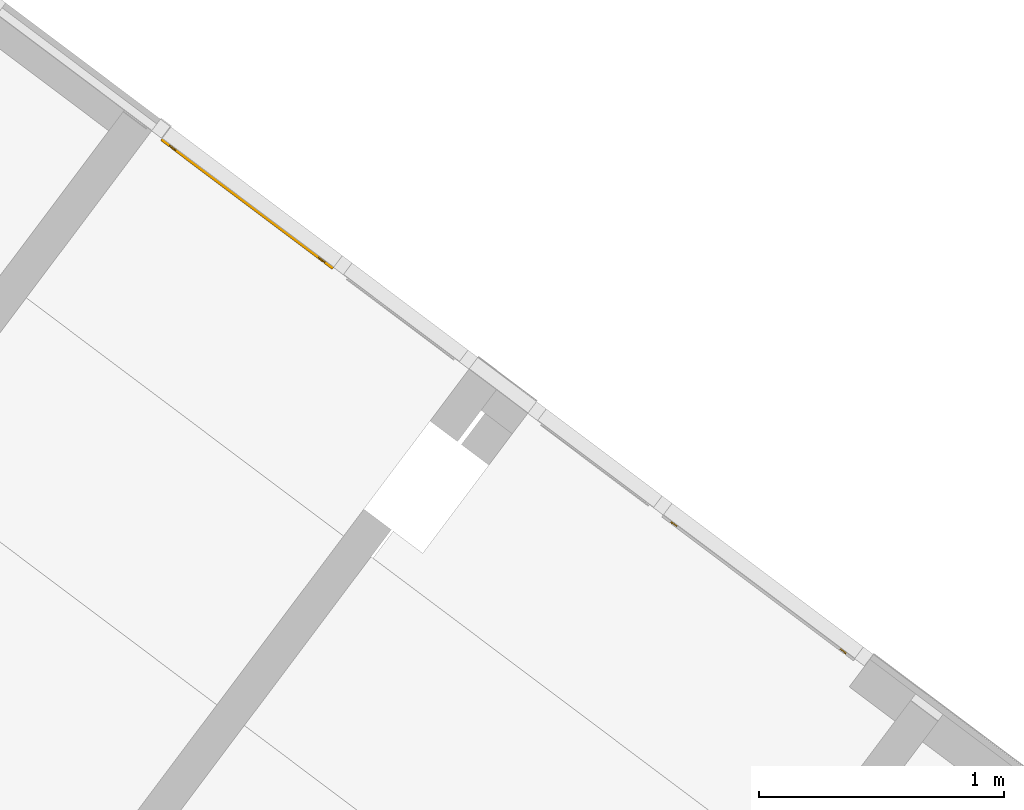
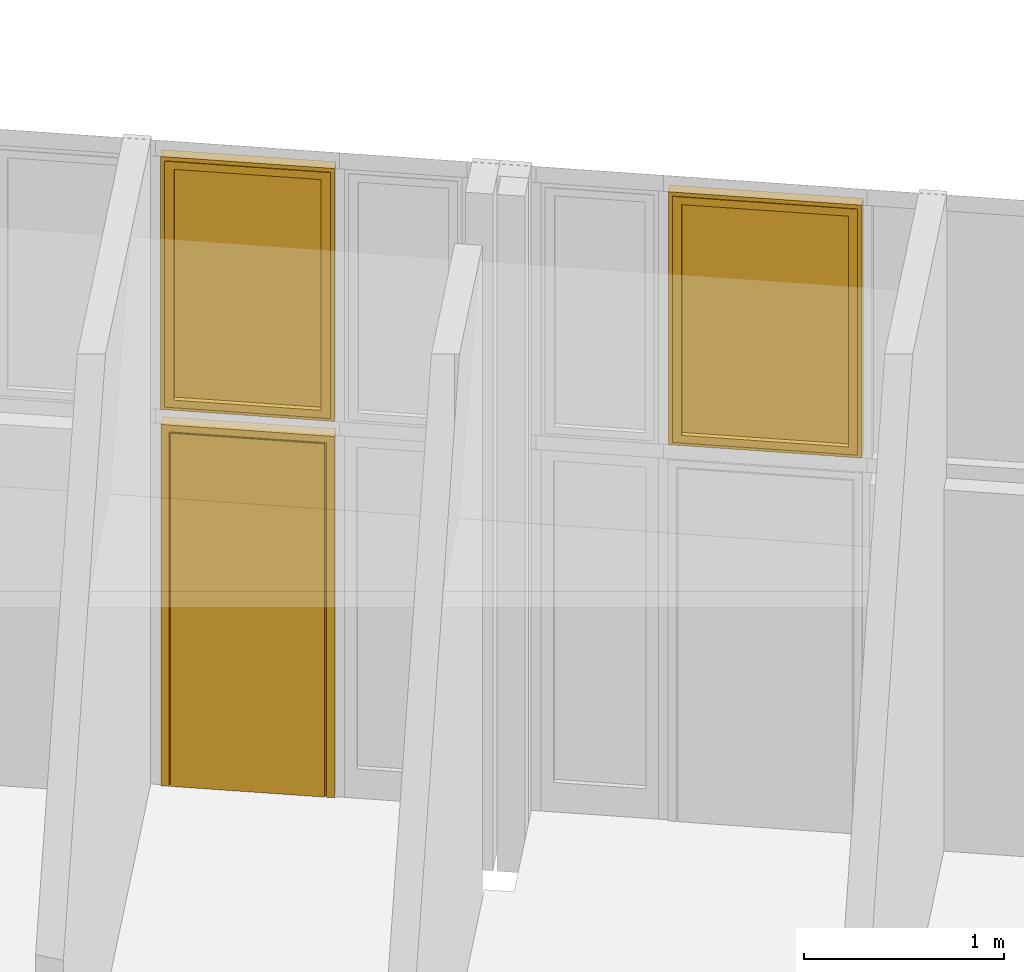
# One storey, part 16 of 18: 2 windows, 1 door, 2 elements without a shape of their own.
"""IFC2X3 building model written with IfcOpenShell, lengths in metres."""

from ifc_helpers import new_model, entity, si_unit, converted_unit, derived_unit, direction, frame, origin, place, context, subcontext, project, spatial, faceted_brep, source, transform, mapped, material, material_list, type_object, type_shapes, element, aggregate, save


model = new_model("IFC2X3")

# Units and contexts
model_context = context("Model", 3, precision=1e-05, world=origin(), true_north=direction((6.123031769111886e-17, 1.0)))
body_context = subcontext(model_context, "Body", "Model", "MODEL_VIEW")
ifc_project = project(units=[si_unit("LENGTHUNIT", "METRE"), si_unit("AREAUNIT", "SQUARE_METRE"), si_unit("VOLUMEUNIT", "CUBIC_METRE"), converted_unit("PLANEANGLEUNIT", "DEGREE", entity("IfcRatioMeasure", 0.017453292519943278), si_unit("PLANEANGLEUNIT", "RADIAN"), dimensions=[0, 0, 0, 0, 0, 0, 0]), si_unit("MASSUNIT", "GRAM", prefix="KILO"), derived_unit("MASSDENSITYUNIT", [(si_unit("MASSUNIT", "GRAM", prefix="KILO"), 1), (si_unit("LENGTHUNIT", "METRE"), -3)]), derived_unit("IONCONCENTRATIONUNIT", [(si_unit("MASSUNIT", "GRAM", prefix="KILO"), 1), (si_unit("LENGTHUNIT", "METRE"), -3)]), derived_unit("MOMENTOFINERTIAUNIT", [(si_unit("LENGTHUNIT", "METRE"), 4)]), si_unit("TIMEUNIT", "SECOND"), si_unit("FREQUENCYUNIT", "HERTZ"), si_unit("THERMODYNAMICTEMPERATUREUNIT", "DEGREE_CELSIUS"), derived_unit("THERMALTRANSMITTANCEUNIT", [(si_unit("MASSUNIT", "GRAM", prefix="KILO"), 1), (si_unit("THERMODYNAMICTEMPERATUREUNIT", "KELVIN"), -1), (si_unit("TIMEUNIT", "SECOND"), -3)]), derived_unit("THERMALCONDUCTANCEUNIT", [(si_unit("MASSUNIT", "GRAM", prefix="KILO"), 1), (si_unit("THERMODYNAMICTEMPERATUREUNIT", "KELVIN"), -1), (si_unit("TIMEUNIT", "SECOND"), -3), (si_unit("LENGTHUNIT", "METRE"), 1)]), derived_unit("VOLUMETRICFLOWRATEUNIT", [(si_unit("LENGTHUNIT", "METRE"), 3), (si_unit("TIMEUNIT", "SECOND"), -1)]), derived_unit("MASSFLOWRATEUNIT", [(si_unit("MASSUNIT", "GRAM", prefix="KILO"), 1), (si_unit("TIMEUNIT", "SECOND"), -1)]), derived_unit("ROTATIONALFREQUENCYUNIT", [(si_unit("TIMEUNIT", "SECOND"), -1)]), si_unit("ELECTRICCURRENTUNIT", "AMPERE"), si_unit("ELECTRICVOLTAGEUNIT", "VOLT"), si_unit("POWERUNIT", "WATT"), si_unit("FORCEUNIT", "NEWTON", prefix="KILO"), si_unit("ILLUMINANCEUNIT", "LUX"), si_unit("LUMINOUSFLUXUNIT", "LUMEN"), si_unit("LUMINOUSINTENSITYUNIT", "CANDELA"), derived_unit("USERDEFINED", [(si_unit("MASSUNIT", "GRAM", prefix="KILO"), -1), (si_unit("LENGTHUNIT", "METRE"), -2), (si_unit("TIMEUNIT", "SECOND"), 3), (si_unit("LUMINOUSFLUXUNIT", "LUMEN"), 1)]), derived_unit("USERDEFINED", [(si_unit("MASSUNIT", "GRAM", prefix="KILO"), 1), (si_unit("TIMEUNIT", "SECOND"), -3), (si_unit("LENGTHUNIT", "METRE"), 3), (si_unit("ELECTRICCURRENTUNIT", "AMPERE"), -2)]), derived_unit("SOUNDPOWERUNIT", [(si_unit("MASSUNIT", "GRAM", prefix="KILO"), 1), (si_unit("TIMEUNIT", "SECOND"), -3), (si_unit("LENGTHUNIT", "METRE"), 2)]), derived_unit("SOUNDPRESSUREUNIT", [(si_unit("MASSUNIT", "GRAM", prefix="KILO"), 1), (si_unit("LENGTHUNIT", "METRE"), -1), (si_unit("TIMEUNIT", "SECOND"), -2)]), derived_unit("LINEARVELOCITYUNIT", [(si_unit("LENGTHUNIT", "METRE"), 1), (si_unit("TIMEUNIT", "SECOND"), -1)]), si_unit("PRESSUREUNIT", "PASCAL"), derived_unit("USERDEFINED", [(si_unit("MASSUNIT", "GRAM", prefix="KILO"), 1), (si_unit("LENGTHUNIT", "METRE"), -2), (si_unit("TIMEUNIT", "SECOND"), -2)]), derived_unit("LINEARFORCEUNIT", [(si_unit("MASSUNIT", "GRAM", prefix="KILO"), 1), (si_unit("TIMEUNIT", "SECOND"), -2)]), derived_unit("PLANARFORCEUNIT", [(si_unit("MASSUNIT", "GRAM", prefix="KILO"), 1), (si_unit("LENGTHUNIT", "METRE"), -1), (si_unit("TIMEUNIT", "SECOND"), -2)]), derived_unit("SPECIFICHEATCAPACITYUNIT", [(si_unit("THERMODYNAMICTEMPERATUREUNIT", "KELVIN"), -1), (si_unit("LENGTHUNIT", "METRE"), 2), (si_unit("TIMEUNIT", "SECOND"), -2)]), derived_unit("HEATINGVALUEUNIT", [(si_unit("LENGTHUNIT", "METRE"), 2), (si_unit("TIMEUNIT", "SECOND"), -2)]), derived_unit("VAPORPERMEABILITYUNIT", [(si_unit("LENGTHUNIT", "METRE"), -1), (si_unit("TIMEUNIT", "SECOND"), 1)]), derived_unit("DYNAMICVISCOSITYUNIT", [(si_unit("MASSUNIT", "GRAM", prefix="KILO"), 1), (si_unit("TIMEUNIT", "SECOND"), -1), (si_unit("LENGTHUNIT", "METRE"), -1)]), derived_unit("THERMALEXPANSIONCOEFFICIENTUNIT", [(si_unit("THERMODYNAMICTEMPERATUREUNIT", "KELVIN"), -1)]), derived_unit("MODULUSOFELASTICITYUNIT", [(si_unit("MASSUNIT", "GRAM", prefix="KILO"), 1), (si_unit("LENGTHUNIT", "METRE"), -1), (si_unit("TIMEUNIT", "SECOND"), -2)]), derived_unit("ISOTHERMALMOISTURECAPACITYUNIT", [(si_unit("LENGTHUNIT", "METRE"), 3), (si_unit("MASSUNIT", "GRAM", prefix="KILO"), -1)]), derived_unit("MOISTUREDIFFUSIVITYUNIT", [(si_unit("TIMEUNIT", "SECOND"), -1), (si_unit("LENGTHUNIT", "METRE"), 2)])], contexts=[model_context])

# Site, building, storey
site_placement = place(None, frame((0.0, 0.0, 235.0), z_axis=(0.0, 0.0, 1.0), x_axis=(-0.7996477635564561, 0.6004693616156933, 0.0)))
site = spatial("IfcSite", under=ifc_project, at=site_placement, Name="Default", CompositionType="ELEMENT")
building_placement = place(site_placement, origin())
building = spatial("IfcBuilding", under=site, at=building_placement, CompositionType="ELEMENT")
storey_placement = place(building_placement, frame((0.0, 0.0, -4.459999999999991)))
storey = spatial("IfcBuildingStorey", under=building, at=storey_placement, Name="PS1- Vestuari", CompositionType="ELEMENT", Elevation=-4.459999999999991)

# Curtain wall, windows
curtain_wall_type = type_object("IfcCurtainWallType", Name="Muro cortina:MC- EXT- AL6", PredefinedType="NOTDEFINED")
curtain_wall_1_placement = place(storey_placement, frame((0.0, 0.0, 4.459999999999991)))
curtain_wall_1 = element("IfcCurtainWall", 1, at=curtain_wall_1_placement, inside=storey, type_object=curtain_wall_type, Name="Muro cortina:MC- EXT- AL6", ObjectType="Muro cortina:MC- EXT- AL6")
ifc_material_1 = material(Name="_Vidre")
ifc_material_2 = material(Name="_Alumini- T1- Perfil")
ifc_material_list = material_list([ifc_material_1, ifc_material_2])
window_style_1 = type_object("IfcWindowStyle", Name="MC- Alu- Conjunt finestra basculant- 68x68 cm:MC- Alu- Conjunt finestra basculant- 68x68 cm", ConstructionType="NOTDEFINED", OperationType="NOTDEFINED", ParameterTakesPrecedence=False, Sizeable=False, material=ifc_material_list)
shared_shape_1 = source(origin(), body_context, "Body", "Brep", [
    faceted_brep([(0.43666171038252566, -0.03559830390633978, 0.051999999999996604), (-0.4366617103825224, -0.035598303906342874, 0.051999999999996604), (-0.4366617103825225, -0.011598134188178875, 0.051999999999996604), (0.4366617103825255, -0.011598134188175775, 0.051999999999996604), (0.43666171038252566, -0.03559830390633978, 1.4953027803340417), (0.4366617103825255, -0.011598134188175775, 1.4953027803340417), (-0.4366617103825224, -0.011598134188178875, 1.4953027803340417), (-0.4366617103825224, -0.035598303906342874, 1.4953027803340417)], [[[0, 1, 2, 3]], [[4, 0, 3, 5]], [[5, 3, 2, 6]], [[6, 2, 1, 7]], [[7, 1, 0, 4]], [[4, 5, 6, 7]]]),
    faceted_brep([(-0.42096088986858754, -0.009998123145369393, 1.4796019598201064), (-0.4209608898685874, -0.009998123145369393, 0.06789804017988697), (-0.4209608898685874, -0.007998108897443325, 0.06789804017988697), (-0.4209608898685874, -0.007998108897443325, 1.4796019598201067), (-0.44985893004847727, -0.007998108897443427, 1.5084999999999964), (0.4498589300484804, -0.00799810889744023, 1.5084999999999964), (0.44985893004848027, -0.00799810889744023, 0.03899999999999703), (-0.44985893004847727, -0.007998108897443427, 0.03899999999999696), (0.4209608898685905, -0.007998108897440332, 1.4796019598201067), (0.4209608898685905, -0.007998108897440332, 0.06789804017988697), (0.4209608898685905, -0.009998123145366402, 0.06789804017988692), (0.42096088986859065, -0.009998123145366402, 1.4796019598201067), (0.4366617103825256, -0.009998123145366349, 1.4953027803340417), (-0.4366617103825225, -0.00999812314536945, 1.4953027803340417), (-0.4366617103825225, -0.00999812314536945, 0.05219721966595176), (0.4366617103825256, -0.009998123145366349, 0.05219721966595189), (-0.4366617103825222, -0.04079986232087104, 1.4953027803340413), (-0.43666171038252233, -0.04079986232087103, 0.05219721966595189), (0.4366617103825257, -0.040799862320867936, 0.05219721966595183), (0.4366617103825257, -0.040799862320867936, 1.4953027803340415), (0.42096088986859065, -0.040799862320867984, 1.4796019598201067), (-0.42096088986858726, -0.04079986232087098, 1.4796019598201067), (-0.42096088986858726, -0.04079986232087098, 0.06789804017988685), (0.42096088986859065, -0.040799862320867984, 0.06789804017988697), (-0.4209608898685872, -0.06800005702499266, 1.4796019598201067), (-0.4209608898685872, -0.06800005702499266, 0.06789804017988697), (0.42096088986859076, -0.06800005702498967, 0.06789804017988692), (0.4209608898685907, -0.06800005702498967, 1.4796019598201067), (0.4673628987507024, -0.06800005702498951, 1.5260039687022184), (-0.46736289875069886, -0.06800005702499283, 1.5260039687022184), (-0.46736289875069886, -0.06800005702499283, 0.021496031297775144), (0.4673628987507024, -0.06800005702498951, 0.021496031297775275), (-0.46736289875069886, -0.06450003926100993, 1.5260039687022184), (-0.46736289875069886, -0.06450003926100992, 0.021496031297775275), (0.4673628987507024, -0.0645000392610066, 0.021496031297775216), (0.4673628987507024, -0.0645000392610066, 1.5260039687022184), (0.4498589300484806, -0.06450003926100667, 1.5084999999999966), (-0.44985893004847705, -0.06450003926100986, 1.5084999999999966), (-0.44985893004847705, -0.06450003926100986, 0.03899999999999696), (0.4498589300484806, -0.06450003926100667, 0.03899999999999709)], [[[0, 1, 2, 3]], [[4, 5, 6, 7], [8, 3, 2, 9]], [[1, 10, 9, 2]], [[0, 11, 10, 1], [12, 13, 14, 15]], [[16, 17, 14, 13]], [[17, 18, 15, 14]], [[16, 19, 18, 17], [20, 21, 22, 23]], [[24, 25, 22, 21]], [[25, 26, 23, 22]], [[24, 27, 26, 25], [28, 29, 30, 31]], [[32, 33, 30, 29]], [[33, 34, 31, 30]], [[32, 35, 34, 33], [36, 37, 38, 39]], [[4, 7, 38, 37]], [[7, 6, 39, 38]], [[10, 11, 8, 9]], [[18, 19, 12, 15]], [[26, 27, 20, 23]], [[34, 35, 28, 31]], [[6, 5, 36, 39]], [[11, 0, 3, 8]], [[19, 16, 13, 12]], [[27, 24, 21, 20]], [[35, 32, 29, 28]], [[5, 4, 37, 36]]], outer=[[True], [True, False], [True], [False, True], [True], [True], [True, False], [True], [True], [False, True], [True], [True], [True, False], [True], [True], [True], [True], [True], [True], [True], [True], [True], [True], [True], [True]]),
    faceted_brep([(0.4259431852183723, 0.0, 1.484693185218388), (0.4259431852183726, 0.0, 0.06280681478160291), (0.4259431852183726, -0.0040000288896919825, 0.06280681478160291), (0.4259431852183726, -0.0040000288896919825, 1.4846931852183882), (-0.4259431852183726, -0.0040000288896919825, 1.4846931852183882), (-0.4259431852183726, -0.0040000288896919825, 0.06280681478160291), (0.4613498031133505, -0.0040000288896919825, 1.5200998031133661), (-0.4613498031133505, -0.0040000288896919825, 1.5200998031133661), (-0.4613498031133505, -0.0040000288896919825, 0.02740019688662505), (0.4613498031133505, -0.0040000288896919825, 0.027400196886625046), (-0.4259431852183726, 0.0, 0.06280681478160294), (-0.4259431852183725, 0.0, 1.4846931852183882), (-0.48874999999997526, 0.0, 1.547499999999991), (0.48874999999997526, 0.0, 1.547499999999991), (0.48874999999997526, 0.0, 0.0), (-0.48874999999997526, 0.0, 0.0), (0.48874999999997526, -0.05999999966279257, 1.547499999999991), (0.48874999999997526, -0.05999999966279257, 0.0), (-0.48874999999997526, -0.05999999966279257, 0.0), (-0.48874999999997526, -0.05999999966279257, 1.547499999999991), (-0.4613498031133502, -0.05999999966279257, 1.520099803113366), (0.4613498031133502, -0.05999999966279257, 1.520099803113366), (0.4613498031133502, -0.05999999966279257, 0.02740019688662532), (-0.4613498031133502, -0.05999999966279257, 0.027400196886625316)], [[[0, 1, 2, 3]], [[4, 3, 2, 5], [6, 7, 8, 9]], [[1, 10, 5, 2]], [[0, 11, 10, 1], [12, 13, 14, 15]], [[16, 17, 14, 13]], [[17, 18, 15, 14]], [[16, 19, 18, 17], [20, 21, 22, 23]], [[6, 9, 22, 21]], [[9, 8, 23, 22]], [[10, 11, 4, 5]], [[18, 19, 12, 15]], [[8, 7, 20, 23]], [[11, 0, 3, 4]], [[19, 16, 13, 12]], [[7, 6, 21, 20]]], outer=[[True], [False, True], [True], [False, True], [True], [True], [True, False], [True], [True], [True], [True], [True], [True], [True], [True]]),
])
type_shapes(window_style_1, [shared_shape_1])
window_1_placement = place(curtain_wall_1_placement, frame((47.864397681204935, -40.465191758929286, -2.164999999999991), z_axis=(0.0, 0.0, 1.0), x_axis=(-1.0, 0.0, 0.0)))
window_1 = element("IfcWindow", 2, at=window_1_placement, type_object=window_style_1, material=ifc_material_list, Name="MC- Alu- Conjunt finestra basculant- 68x68 cm:MC- Alu- Conjunt finestra basculant- 68x68 cm", ObjectType="MC- Alu- Conjunt finestra basculant- 68x68 cm:MC- Alu- Conjunt finestra basculant- 68x68 cm", OverallHeight=1.5474999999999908, OverallWidth=0.9774999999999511, context=body_context, shape_type="MappedRepresentation", body=[
    mapped(shared_shape_1, transform((0.0, 0.0, 0.0), scale=1.0)),
])
window_style_2 = type_object("IfcWindowStyle", Name="MC- Alu- Conjunt finestra basculant- 68x68 cm:MC- Alu- Conjunt finestra basculant- 68x68 cm", ConstructionType="NOTDEFINED", OperationType="NOTDEFINED", ParameterTakesPrecedence=False, Sizeable=False, material=ifc_material_list)
shared_shape_2 = source(origin(), body_context, "Body", "Brep", [
    faceted_brep([(0.3874117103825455, -0.03559830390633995, 0.051999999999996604), (-0.38741171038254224, -0.0355983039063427, 0.051999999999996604), (-0.38741171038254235, -0.011598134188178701, 0.051999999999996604), (0.38741171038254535, -0.011598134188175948, 0.051999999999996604), (0.3874117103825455, -0.03559830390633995, 1.4953027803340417), (0.38741171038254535, -0.011598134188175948, 1.4953027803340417), (-0.38741171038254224, -0.011598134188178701, 1.4953027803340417), (-0.38741171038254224, -0.0355983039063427, 1.4953027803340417)], [[[0, 1, 2, 3]], [[4, 0, 3, 5]], [[5, 3, 2, 6]], [[6, 2, 1, 7]], [[7, 1, 0, 4]], [[4, 5, 6, 7]]]),
    faceted_brep([(-0.3717108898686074, -0.00999812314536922, 1.4796019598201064), (-0.37171088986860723, -0.00999812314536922, 0.06789804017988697), (-0.37171088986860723, -0.00799810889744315, 0.06789804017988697), (-0.37171088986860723, -0.00799810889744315, 1.4796019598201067), (-0.4006089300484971, -0.007998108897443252, 1.5084999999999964), (0.40060893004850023, -0.007998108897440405, 1.5084999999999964), (0.40060893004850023, -0.007998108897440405, 0.03899999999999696), (-0.4006089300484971, -0.007998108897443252, 0.03899999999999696), (0.37171088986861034, -0.007998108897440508, 1.4796019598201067), (0.37171088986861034, -0.007998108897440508, 0.06789804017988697), (0.37171088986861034, -0.00999812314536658, 0.06789804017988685), (0.3717108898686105, -0.00999812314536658, 1.4796019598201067), (0.38741171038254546, -0.009998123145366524, 1.4953027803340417), (-0.38741171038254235, -0.009998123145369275, 1.4953027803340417), (-0.38741171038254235, -0.009998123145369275, 0.05219721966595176), (0.38741171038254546, -0.009998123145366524, 0.05219721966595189), (-0.3874117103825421, -0.04079986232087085, 1.4953027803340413), (-0.3874117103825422, -0.040799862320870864, 0.05219721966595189), (0.38741171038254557, -0.0407998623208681, 0.05219721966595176), (0.38741171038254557, -0.0407998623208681, 1.4953027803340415), (0.3717108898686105, -0.040799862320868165, 1.4796019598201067), (-0.3717108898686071, -0.0407998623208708, 1.4796019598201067), (-0.3717108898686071, -0.0407998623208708, 0.06789804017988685), (0.3717108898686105, -0.040799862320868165, 0.06789804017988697), (-0.37171088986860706, -0.06800005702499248, 1.4796019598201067), (-0.37171088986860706, -0.06800005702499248, 0.06789804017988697), (0.3717108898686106, -0.06800005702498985, 0.06789804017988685), (0.37171088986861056, -0.06800005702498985, 1.4796019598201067), (0.4181128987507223, -0.06800005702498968, 1.5260039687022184), (-0.4181128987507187, -0.06800005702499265, 1.5260039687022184), (-0.4181128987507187, -0.06800005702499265, 0.021496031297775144), (0.4181128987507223, -0.06800005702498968, 0.021496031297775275), (-0.4181128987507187, -0.06450003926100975, 1.5260039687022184), (-0.4181128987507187, -0.06450003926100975, 0.021496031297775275), (0.4181128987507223, -0.06450003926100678, 0.021496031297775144), (0.4181128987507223, -0.06450003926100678, 1.5260039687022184), (0.40060893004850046, -0.06450003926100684, 1.5084999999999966), (-0.4006089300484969, -0.06450003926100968, 1.5084999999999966), (-0.4006089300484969, -0.06450003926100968, 0.03899999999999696), (0.40060893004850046, -0.06450003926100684, 0.03899999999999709)], [[[0, 1, 2, 3]], [[4, 5, 6, 7], [8, 3, 2, 9]], [[1, 10, 9, 2]], [[0, 11, 10, 1], [12, 13, 14, 15]], [[16, 17, 14, 13]], [[17, 18, 15, 14]], [[16, 19, 18, 17], [20, 21, 22, 23]], [[24, 25, 22, 21]], [[25, 26, 23, 22]], [[24, 27, 26, 25], [28, 29, 30, 31]], [[32, 33, 30, 29]], [[33, 34, 31, 30]], [[32, 35, 34, 33], [36, 37, 38, 39]], [[4, 7, 38, 37]], [[7, 6, 39, 38]], [[10, 11, 8, 9]], [[18, 19, 12, 15]], [[26, 27, 20, 23]], [[34, 35, 28, 31]], [[6, 5, 36, 39]], [[11, 0, 3, 8]], [[19, 16, 13, 12]], [[27, 24, 21, 20]], [[35, 32, 29, 28]], [[5, 4, 37, 36]]], outer=[[True], [True, False], [True], [False, True], [True], [True], [True, False], [True], [True], [False, True], [True], [True], [True, False], [True], [True], [True], [True], [True], [True], [True], [True], [True], [True], [True], [True]]),
    faceted_brep([(0.3766931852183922, 0.0, 1.484693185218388), (0.37669318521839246, 0.0, 0.06280681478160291), (0.37669318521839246, -0.0040000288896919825, 0.06280681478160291), (0.37669318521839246, -0.0040000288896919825, 1.4846931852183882), (-0.37669318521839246, -0.0040000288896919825, 1.4846931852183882), (-0.37669318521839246, -0.0040000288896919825, 0.06280681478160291), (0.41209980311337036, -0.0040000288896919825, 1.5200998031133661), (-0.41209980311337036, -0.0040000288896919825, 1.5200998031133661), (-0.41209980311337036, -0.0040000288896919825, 0.02740019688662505), (0.41209980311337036, -0.0040000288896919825, 0.027400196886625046), (-0.37669318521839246, 0.0, 0.06280681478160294), (-0.3766931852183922, 0.0, 1.484693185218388), (-0.4394999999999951, 0.0, 1.547499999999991), (0.4394999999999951, 0.0, 1.547499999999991), (0.4394999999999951, 0.0, 0.0), (-0.4394999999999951, 0.0, 0.0), (0.4394999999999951, -0.05999999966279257, 1.547499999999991), (0.4394999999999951, -0.05999999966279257, 0.0), (-0.4394999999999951, -0.05999999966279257, 0.0), (-0.4394999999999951, -0.05999999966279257, 1.547499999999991), (-0.4120998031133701, -0.05999999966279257, 1.520099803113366), (0.4120998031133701, -0.05999999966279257, 1.520099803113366), (0.4120998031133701, -0.05999999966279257, 0.02740019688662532), (-0.4120998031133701, -0.05999999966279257, 0.027400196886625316)], [[[0, 1, 2, 3]], [[4, 3, 2, 5], [6, 7, 8, 9]], [[1, 10, 5, 2]], [[0, 11, 10, 1], [12, 13, 14, 15]], [[16, 17, 14, 13]], [[17, 18, 15, 14]], [[16, 19, 18, 17], [20, 21, 22, 23]], [[6, 9, 22, 21]], [[9, 8, 23, 22]], [[10, 11, 4, 5]], [[18, 19, 12, 15]], [[8, 7, 20, 23]], [[11, 0, 3, 4]], [[19, 16, 13, 12]], [[7, 6, 21, 20]]], outer=[[True], [False, True], [True], [False, True], [True], [True], [True, False], [True], [True], [True], [True], [True], [True], [True], [True]]),
])
type_shapes(window_style_2, [shared_shape_2])
window_2_placement = place(curtain_wall_1_placement, frame((50.47664768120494, -40.46519175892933, -2.164999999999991), z_axis=(0.0, 0.0, 1.0), x_axis=(-1.0, 0.0, 0.0)))
window_2 = element("IfcWindow", 3, at=window_2_placement, type_object=window_style_2, material=ifc_material_list, Name="MC- Alu- Conjunt finestra basculant- 68x68 cm:MC- Alu- Conjunt finestra basculant- 68x68 cm", ObjectType="MC- Alu- Conjunt finestra basculant- 68x68 cm:MC- Alu- Conjunt finestra basculant- 68x68 cm", OverallHeight=1.5474999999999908, OverallWidth=0.8789999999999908, context=body_context, shape_type="MappedRepresentation", body=[
    mapped(shared_shape_2, transform((0.0, 0.0, 0.0), scale=1.0)),
])
aggregate(curtain_wall_1, [window_1, window_2])

# Curtain wall, door
curtain_wall_2_placement = place(storey_placement, frame((0.0, 0.0, 4.459999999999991)))
curtain_wall_2 = element("IfcCurtainWall", 4, at=curtain_wall_2_placement, inside=storey, type_object=curtain_wall_type, Name="Muro cortina:MC- EXT- AL6", ObjectType="Muro cortina:MC- EXT- AL6")
door_style = type_object("IfcDoorStyle", Name="MC- Alu- Conjunt porta- 70x60 cm- opacat:MC- Alu- Conjunt porta- 70x60 cm- opacat", ConstructionType="NOTDEFINED", OperationType="NOTDEFINED", ParameterTakesPrecedence=False, Sizeable=False, material=ifc_material_2)
shared_shape_3 = source(origin(), body_context, "Body", "Brep", [
    faceted_brep([(-0.3607000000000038, -2.9457204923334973e-07, 0.02800000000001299), (0.36070000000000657, -2.9457204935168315e-07, 0.02800000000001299), (0.360700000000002, -0.015000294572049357, 0.02800000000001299), (-0.3607000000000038, -0.015000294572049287, 0.02800000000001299), (-0.3607000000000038, -2.945720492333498e-07, 2.1326418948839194), (-0.3607000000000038, -0.015000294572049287, 2.1326418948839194), (0.3607000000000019, -0.015000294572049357, 2.1326418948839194), (0.36070000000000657, -2.9457204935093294e-07, 2.1326418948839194)], [[[0, 1, 2, 3]], [[4, 0, 3, 5]], [[5, 3, 2, 6]], [[6, 2, 1, 7]], [[7, 1, 0, 4]], [[4, 5, 6, 7]]]),
    faceted_brep([(-0.36070000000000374, -0.06999999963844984, 0.02800000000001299), (-0.36070000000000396, -0.05499999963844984, 0.02800000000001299), (0.36070000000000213, -0.054999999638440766, 0.02800000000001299), (0.3607000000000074, -0.0699999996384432, 0.02800000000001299), (-0.36070000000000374, -0.06999999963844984, 2.1326418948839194), (0.3607000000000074, -0.0699999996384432, 2.1326418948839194), (0.36070000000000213, -0.054999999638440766, 2.1326418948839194), (-0.3607000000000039, -0.05499999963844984, 2.1326418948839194)], [[[0, 1, 2, 3]], [[4, 0, 3, 5]], [[5, 3, 2, 6]], [[6, 2, 1, 7]], [[7, 1, 0, 4]], [[4, 5, 6, 7]]]),
    faceted_brep([(-0.3887000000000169, -0.06570000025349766, 2.1606418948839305), (-0.3887000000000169, -0.06570000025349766, 0.0), (-0.38870000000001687, -0.06999999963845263, 0.0), (-0.38870000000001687, -0.06999999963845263, 2.160641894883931), (0.38870000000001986, -0.06999999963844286, 0.0), (0.38870000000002, -0.06999999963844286, 2.160641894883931), (-0.3607000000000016, -0.06999999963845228, 0.028000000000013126), (-0.36070000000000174, -0.06999999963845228, 2.132641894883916), (0.36070000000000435, -0.06999999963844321, 2.132641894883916), (0.3607000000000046, -0.06999999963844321, 0.028000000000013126), (0.38870000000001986, -0.06570000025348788, 0.0), (0.3887000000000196, -0.06570000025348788, 2.1606418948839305), (-0.36470000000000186, -0.06570000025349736, 2.1366418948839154), (-0.36470000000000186, -0.06570000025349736, 0.024000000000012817), (0.3647000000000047, -0.06570000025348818, 0.024000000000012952), (0.3647000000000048, -0.06570000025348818, 2.136641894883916), (-0.36470000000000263, -2.945720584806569e-07, 2.1366418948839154), (-0.36470000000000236, -2.945720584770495e-07, 0.02400000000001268), (0.36470000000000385, -2.945720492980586e-07, 0.024000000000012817), (0.36470000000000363, -2.945720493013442e-07, 2.136641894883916), (-0.36070000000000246, -2.9457205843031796e-07, 2.132641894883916), (-0.36070000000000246, -2.9457205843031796e-07, 0.02800000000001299), (0.3607000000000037, -2.9457204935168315e-07, 0.028000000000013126), (0.3607000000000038, -2.9457204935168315e-07, 2.132641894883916)], [[[0, 1, 2, 3]], [[3, 2, 4, 5], [6, 7, 8, 9]], [[1, 10, 4, 2]], [[1, 0, 11, 10], [12, 13, 14, 15]], [[16, 17, 13, 12]], [[17, 18, 14, 13]], [[17, 16, 19, 18], [20, 21, 22, 23]], [[10, 11, 5, 4]], [[18, 19, 15, 14]], [[7, 6, 21, 20]], [[6, 9, 22, 21]], [[9, 8, 23, 22]], [[11, 0, 3, 5]], [[8, 7, 20, 23]], [[19, 16, 12, 15]]]),
    faceted_brep([(-0.43800000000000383, -0.06999999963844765, 0.0), (-0.43800000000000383, 0.0, 0.0), (-0.37070000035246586, 0.0, 0.0), (-0.37070000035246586, -0.008800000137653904, 0.0), (-0.38619996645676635, -0.008800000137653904, 0.0), (-0.38619996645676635, -0.059699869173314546, 0.0), (-0.3967000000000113, -0.059699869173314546, 0.0), (-0.3967000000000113, -0.06999999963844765, 0.0), (-0.3967000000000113, -0.06999999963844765, 2.1686418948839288), (0.3967000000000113, -0.06999999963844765, 2.1686418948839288), (0.3967000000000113, -0.06999999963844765, 0.0), (0.43800000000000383, -0.06999999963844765, 0.0), (0.43800000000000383, -0.06999999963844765, 2.2099418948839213), (-0.438000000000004, -0.06999999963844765, 2.2099418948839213), (-0.3967000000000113, -0.059699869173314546, 2.1686418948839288), (-0.38619996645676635, -0.059699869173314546, 2.1581418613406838), (0.38619996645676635, -0.059699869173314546, 2.1581418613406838), (0.38619996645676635, -0.059699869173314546, 0.0), (0.3967000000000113, -0.059699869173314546, 0.0), (0.3967000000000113, -0.059699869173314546, 2.1686418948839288), (-0.38619996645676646, -0.008800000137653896, 2.1581418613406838), (-0.3707000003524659, -0.008800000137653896, 2.1426418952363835), (0.37070000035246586, -0.008800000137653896, 2.1426418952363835), (0.37070000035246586, -0.008800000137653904, 0.0), (0.38619996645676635, -0.008800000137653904, 0.0), (0.38619996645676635, -0.008800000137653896, 2.1581418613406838), (-0.37070000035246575, 0.0, 2.1426418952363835), (-0.43800000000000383, 0.0, 2.2099418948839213), (0.43800000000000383, 0.0, 2.2099418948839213), (0.43800000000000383, 0.0, 0.0), (0.37070000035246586, 0.0, 0.0), (0.37070000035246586, 0.0, 2.1426418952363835)], [[[0, 1, 2, 3, 4, 5, 6, 7]], [[7, 8, 9, 10, 11, 12, 13, 0]], [[6, 14, 8, 7]], [[5, 15, 16, 17, 18, 19, 14, 6]], [[4, 20, 15, 5]], [[3, 21, 22, 23, 24, 25, 20, 4]], [[2, 26, 21, 3]], [[1, 27, 28, 29, 30, 31, 26, 2]], [[0, 13, 27, 1]], [[11, 10, 18, 17, 24, 23, 30, 29]], [[12, 11, 29, 28]], [[31, 30, 23, 22]], [[25, 24, 17, 16]], [[19, 18, 10, 9]], [[14, 19, 9, 8]], [[20, 25, 16, 15]], [[26, 31, 22, 21]], [[13, 12, 28, 27]]]),
])
type_shapes(door_style, [shared_shape_3])
door_placement = place(curtain_wall_2_placement, frame((50.47514768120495, -40.46519175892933, -4.459999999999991), z_axis=(0.0, 0.0, 1.0), x_axis=(-1.0, 0.0, 0.0)))
door = element("IfcDoor", 5, at=door_placement, type_object=door_style, material=ifc_material_2, Name="MC- Alu- Conjunt porta- 70x60 cm- opacat:MC- Alu- Conjunt porta- 70x60 cm- opacat", ObjectType="MC- Alu- Conjunt porta- 70x60 cm- opacat:MC- Alu- Conjunt porta- 70x60 cm- opacat", OverallHeight=2.209941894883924, OverallWidth=0.8760000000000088, context=body_context, shape_type="MappedRepresentation", body=[
    mapped(shared_shape_3, transform((0.0, 0.0, 0.0), scale=1.0)),
])
aggregate(curtain_wall_2, [door])

save(model, "model.ifc")
